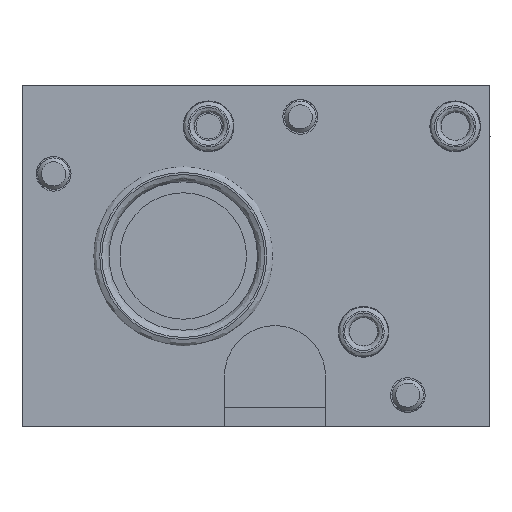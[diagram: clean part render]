
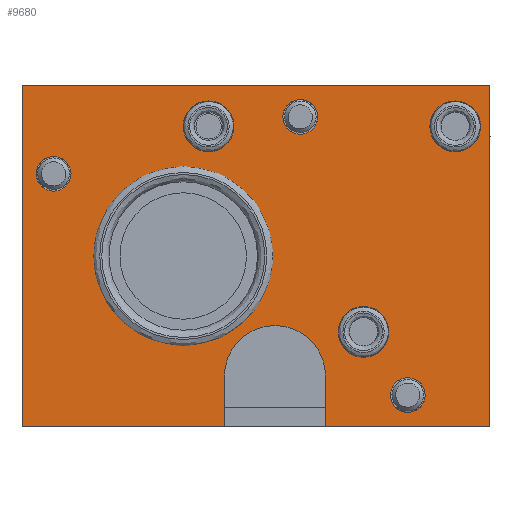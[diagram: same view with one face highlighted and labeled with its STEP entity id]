
A CAD part, left-side view. The second image highlights one B-rep face of the part: STEP entity #9680.
In plain terms, the highlighted planar face has unit normal (-1, 0, 0).
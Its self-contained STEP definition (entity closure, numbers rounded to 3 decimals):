
#49 = ORIENTED_EDGE ( 'NONE', *, *, #1098, .F. ) ;
#235 = DIRECTION ( 'NONE',  ( 1., 0., 0. ) ) ;
#239 = VERTEX_POINT ( 'NONE', #7208 ) ;
#245 = DIRECTION ( 'NONE',  ( 0., 1., 0. ) ) ;
#257 = CARTESIAN_POINT ( 'NONE',  ( 0., -29.5, 47.5 ) ) ;
#291 = VECTOR ( 'NONE', #668, 1000. ) ;
#530 = VERTEX_POINT ( 'NONE', #8528 ) ;
#586 = LINE ( 'NONE', #15425, #291 ) ;
#588 = CARTESIAN_POINT ( 'NONE',  ( 0., -74., 54. ) ) ;
#668 = DIRECTION ( 'NONE',  ( 0., -1., 0. ) ) ;
#710 = AXIS2_PLACEMENT_3D ( 'NONE', #257, #2718, #2796 ) ;
#778 = EDGE_CURVE ( 'NONE', #13817, #13817, #6756, .T. ) ;
#844 = DIRECTION ( 'NONE',  ( 0., -1., 0. ) ) ;
#990 = CARTESIAN_POINT ( 'NONE',  ( 0., 0., 54. ) ) ;
#1009 = VECTOR ( 'NONE', #4800, 1000. ) ;
#1098 = EDGE_CURVE ( 'NONE', #11669, #6365, #11711, .T. ) ;
#1184 = VERTEX_POINT ( 'NONE', #10239 ) ;
#1344 = DIRECTION ( 'NONE',  ( 1., 0., 0. ) ) ;
#1375 = EDGE_LOOP ( 'NONE', ( #13006 ) ) ;
#1485 = EDGE_CURVE ( 'NONE', #6365, #10882, #12108, .T. ) ;
#1506 = FACE_OUTER_BOUND ( 'NONE', #14770, .T. ) ;
#1739 = DIRECTION ( 'NONE',  ( 0., 0., -1. ) ) ;
#1753 = CARTESIAN_POINT ( 'NONE',  ( 0., -40., 8. ) ) ;
#2079 = LINE ( 'NONE', #11162, #1009 ) ;
#2183 = CARTESIAN_POINT ( 'NONE',  ( 0., -48., 8. ) ) ;
#2274 = DIRECTION ( 'NONE',  ( -1., 0., 0. ) ) ;
#2323 = CIRCLE ( 'NONE', #710, 3.9 ) ;
#2476 = EDGE_LOOP ( 'NONE', ( #14608 ) ) ;
#2536 = ORIENTED_EDGE ( 'NONE', *, *, #7682, .F. ) ;
#2630 = AXIS2_PLACEMENT_3D ( 'NONE', #11955, #1344, #245 ) ;
#2680 = VECTOR ( 'NONE', #3089, 1000. ) ;
#2718 = DIRECTION ( 'NONE',  ( -1., 0., 0. ) ) ;
#2796 = DIRECTION ( 'NONE',  ( 0., 0., 1. ) ) ;
#2941 = VERTEX_POINT ( 'NONE', #4119 ) ;
#2963 = CARTESIAN_POINT ( 'NONE',  ( 0., 0., 0. ) ) ;
#3072 = CIRCLE ( 'NONE', #6885, 2.75 ) ;
#3089 = DIRECTION ( 'NONE',  ( 0., 0., -1. ) ) ;
#3202 = CARTESIAN_POINT ( 'NONE',  ( 0., -48., 0. ) ) ;
#3229 = VERTEX_POINT ( 'NONE', #9896 ) ;
#3255 = CARTESIAN_POINT ( 'NONE',  ( 0., -68.5, 47.5 ) ) ;
#3274 = CIRCLE ( 'NONE', #7105, 14.075 ) ;
#3293 = EDGE_LOOP ( 'NONE', ( #5126 ) ) ;
#3356 = CIRCLE ( 'NONE', #10195, 2.75 ) ;
#3387 = CARTESIAN_POINT ( 'NONE',  ( 0., -68.5, 51.4 ) ) ;
#3546 = CARTESIAN_POINT ( 'NONE',  ( 0., 0., 0. ) ) ;
#3567 = VERTEX_POINT ( 'NONE', #3202 ) ;
#3582 = EDGE_CURVE ( 'NONE', #7149, #15613, #586, .T. ) ;
#3821 = VERTEX_POINT ( 'NONE', #8441 ) ;
#4119 = CARTESIAN_POINT ( 'NONE',  ( 0., -39.575, 27. ) ) ;
#4157 = DIRECTION ( 'NONE',  ( 1., 0., 0. ) ) ;
#4181 = VECTOR ( 'NONE', #12728, 1000. ) ;
#4244 = DIRECTION ( 'NONE',  ( 0., 0., -1. ) ) ;
#4522 = EDGE_CURVE ( 'NONE', #7149, #14456, #10445, .T. ) ;
#4560 = DIRECTION ( 'NONE',  ( 0., 0., -1. ) ) ;
#4723 = EDGE_CURVE ( 'NONE', #2941, #2941, #3274, .T. ) ;
#4800 = DIRECTION ( 'NONE',  ( 0., -1., 0. ) ) ;
#4854 = ORIENTED_EDGE ( 'NONE', *, *, #4522, .T. ) ;
#4933 = ORIENTED_EDGE ( 'NONE', *, *, #13262, .T. ) ;
#4951 = EDGE_CURVE ( 'NONE', #15613, #3821, #12309, .T. ) ;
#5126 = ORIENTED_EDGE ( 'NONE', *, *, #778, .T. ) ;
#5247 = AXIS2_PLACEMENT_3D ( 'NONE', #11184, #2274, #15201 ) ;
#6240 = AXIS2_PLACEMENT_3D ( 'NONE', #15909, #4157, #9395 ) ;
#6302 = EDGE_LOOP ( 'NONE', ( #4933 ) ) ;
#6365 = VERTEX_POINT ( 'NONE', #16692 ) ;
#6615 = FACE_BOUND ( 'NONE', #13563, .T. ) ;
#6626 = CARTESIAN_POINT ( 'NONE',  ( 0., -25.5, 27. ) ) ;
#6650 = EDGE_LOOP ( 'NONE', ( #13022 ) ) ;
#6701 = PLANE ( 'NONE',  #2630 ) ;
#6731 = EDGE_CURVE ( 'NONE', #239, #239, #12655, .T. ) ;
#6756 = CIRCLE ( 'NONE', #6240, 2.75 ) ;
#6827 = VECTOR ( 'NONE', #4560, 1000. ) ;
#6849 = CARTESIAN_POINT ( 'NONE',  ( 0., -32., 8. ) ) ;
#6885 = AXIS2_PLACEMENT_3D ( 'NONE', #10849, #8526, #4244 ) ;
#6957 = DIRECTION ( 'NONE',  ( -1., 0., 0. ) ) ;
#7105 = AXIS2_PLACEMENT_3D ( 'NONE', #6626, #15892, #7841 ) ;
#7149 = VERTEX_POINT ( 'NONE', #990 ) ;
#7208 = CARTESIAN_POINT ( 'NONE',  ( 0., -54., 18.9 ) ) ;
#7396 = LINE ( 'NONE', #12641, #4181 ) ;
#7682 = EDGE_CURVE ( 'NONE', #3567, #11669, #7396, .T. ) ;
#7841 = DIRECTION ( 'NONE',  ( 0., -1., 0. ) ) ;
#7906 = CARTESIAN_POINT ( 'NONE',  ( 0., -44., 49. ) ) ;
#7995 = FACE_BOUND ( 'NONE', #3293, .T. ) ;
#8441 = CARTESIAN_POINT ( 'NONE',  ( 0., -74., 0. ) ) ;
#8478 = DIRECTION ( 'NONE',  ( -1., 0., 0. ) ) ;
#8526 = DIRECTION ( 'NONE',  ( 1., 0., 0. ) ) ;
#8528 = CARTESIAN_POINT ( 'NONE',  ( 0., -61., 2.25 ) ) ;
#8995 = ORIENTED_EDGE ( 'NONE', *, *, #16810, .F. ) ;
#9283 = FACE_BOUND ( 'NONE', #1375, .T. ) ;
#9395 = DIRECTION ( 'NONE',  ( 0., 0., -1. ) ) ;
#9409 = CARTESIAN_POINT ( 'NONE',  ( 0., 0., 54. ) ) ;
#9487 = EDGE_CURVE ( 'NONE', #14456, #10882, #12319, .T. ) ;
#9535 = ORIENTED_EDGE ( 'NONE', *, *, #4723, .F. ) ;
#9680 = ADVANCED_FACE ( 'NONE', ( #9283, #15541, #6615, #15626, #7995, #13078, #10399, #1506 ), #6701, .F. ) ;
#9775 = EDGE_CURVE ( 'NONE', #3567, #3821, #2079, .T. ) ;
#9896 = CARTESIAN_POINT ( 'NONE',  ( 0., -44., 46.25 ) ) ;
#10180 = CARTESIAN_POINT ( 'NONE',  ( 0., -74., 54. ) ) ;
#10195 = AXIS2_PLACEMENT_3D ( 'NONE', #7906, #235, #1739 ) ;
#10239 = CARTESIAN_POINT ( 'NONE',  ( 0., -29.5, 51.4 ) ) ;
#10342 = ORIENTED_EDGE ( 'NONE', *, *, #3582, .F. ) ;
#10399 = FACE_BOUND ( 'NONE', #6650, .T. ) ;
#10413 = ORIENTED_EDGE ( 'NONE', *, *, #9775, .T. ) ;
#10445 = LINE ( 'NONE', #9409, #15848 ) ;
#10849 = CARTESIAN_POINT ( 'NONE',  ( 0., -61., 5. ) ) ;
#10882 = VERTEX_POINT ( 'NONE', #13219 ) ;
#11034 = CIRCLE ( 'NONE', #13242, 3.9 ) ;
#11162 = CARTESIAN_POINT ( 'NONE',  ( 0., 0., 0. ) ) ;
#11184 = CARTESIAN_POINT ( 'NONE',  ( 0., -54., 15. ) ) ;
#11427 = AXIS2_PLACEMENT_3D ( 'NONE', #1753, #6957, #12047 ) ;
#11455 = ORIENTED_EDGE ( 'NONE', *, *, #4951, .F. ) ;
#11643 = EDGE_LOOP ( 'NONE', ( #9535 ) ) ;
#11669 = VERTEX_POINT ( 'NONE', #2183 ) ;
#11711 = CIRCLE ( 'NONE', #11427, 8. ) ;
#11955 = CARTESIAN_POINT ( 'NONE',  ( 0., 0., 54. ) ) ;
#12047 = DIRECTION ( 'NONE',  ( 0., -1., 0. ) ) ;
#12108 = LINE ( 'NONE', #6849, #2680 ) ;
#12309 = LINE ( 'NONE', #588, #6827 ) ;
#12319 = LINE ( 'NONE', #3546, #12748 ) ;
#12641 = CARTESIAN_POINT ( 'NONE',  ( 0., -48., -27. ) ) ;
#12655 = CIRCLE ( 'NONE', #5247, 3.9 ) ;
#12728 = DIRECTION ( 'NONE',  ( 0., 0., 1. ) ) ;
#12748 = VECTOR ( 'NONE', #844, 1000. ) ;
#12878 = ORIENTED_EDGE ( 'NONE', *, *, #1485, .F. ) ;
#13006 = ORIENTED_EDGE ( 'NONE', *, *, #6731, .F. ) ;
#13022 = ORIENTED_EDGE ( 'NONE', *, *, #13447, .T. ) ;
#13078 = FACE_BOUND ( 'NONE', #6302, .T. ) ;
#13219 = CARTESIAN_POINT ( 'NONE',  ( 0., -32., 0. ) ) ;
#13242 = AXIS2_PLACEMENT_3D ( 'NONE', #3255, #8478, #13633 ) ;
#13262 = EDGE_CURVE ( 'NONE', #530, #530, #3072, .T. ) ;
#13447 = EDGE_CURVE ( 'NONE', #3229, #3229, #3356, .T. ) ;
#13563 = EDGE_LOOP ( 'NONE', ( #8995 ) ) ;
#13633 = DIRECTION ( 'NONE',  ( 0., 0., 1. ) ) ;
#13817 = VERTEX_POINT ( 'NONE', #15180 ) ;
#14456 = VERTEX_POINT ( 'NONE', #2963 ) ;
#14608 = ORIENTED_EDGE ( 'NONE', *, *, #14734, .F. ) ;
#14647 = DIRECTION ( 'NONE',  ( 0., 0., -1. ) ) ;
#14734 = EDGE_CURVE ( 'NONE', #15132, #15132, #11034, .T. ) ;
#14770 = EDGE_LOOP ( 'NONE', ( #49, #2536, #10413, #11455, #10342, #4854, #16356, #12878 ) ) ;
#15132 = VERTEX_POINT ( 'NONE', #3387 ) ;
#15180 = CARTESIAN_POINT ( 'NONE',  ( 0., -5., 37.25 ) ) ;
#15201 = DIRECTION ( 'NONE',  ( 0., 0., 1. ) ) ;
#15425 = CARTESIAN_POINT ( 'NONE',  ( 0., 0., 54. ) ) ;
#15541 = FACE_BOUND ( 'NONE', #2476, .T. ) ;
#15613 = VERTEX_POINT ( 'NONE', #10180 ) ;
#15626 = FACE_BOUND ( 'NONE', #11643, .T. ) ;
#15848 = VECTOR ( 'NONE', #14647, 1000. ) ;
#15892 = DIRECTION ( 'NONE',  ( -1., 0., 0. ) ) ;
#15909 = CARTESIAN_POINT ( 'NONE',  ( 0., -5., 40. ) ) ;
#16356 = ORIENTED_EDGE ( 'NONE', *, *, #9487, .T. ) ;
#16692 = CARTESIAN_POINT ( 'NONE',  ( 0., -32., 8. ) ) ;
#16810 = EDGE_CURVE ( 'NONE', #1184, #1184, #2323, .T. ) ;
